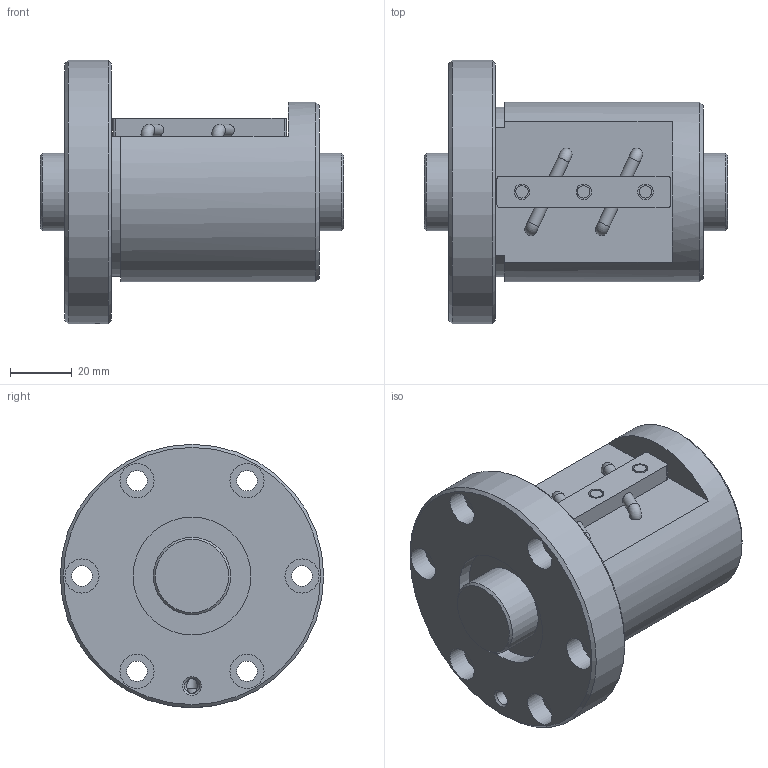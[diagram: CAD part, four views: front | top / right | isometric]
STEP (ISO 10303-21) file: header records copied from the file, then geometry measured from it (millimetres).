
FILE_DESCRIPTION(/* description */ ('STEP AP203'),/* implementation_level */ '2;1');
FILE_NAME(/* name */ 'BNF2508V-5RRG1+98LC0_000_rev',/* time_stamp */ '2024-08-06T07:29:37+02:00',/* author */ ('License CC BY-ND 4.0'),/* organization */ ('CADENAS'),/* preprocessor_version */ 'ST-DEVELOPER v19.3',/* originating_system */ 'PARTsolutions',/* authorisation */ ' ');
FILE_SCHEMA (('CONFIG_CONTROL_DESIGN'));
Length unit declared in the file: millimetre
Products named in the file (3): BNF2508V-5RRG1+98LC0_000_rev; BNF 2508-5RR000 Shaft; BNF 2508-5RR Nut
Assembly tree (2 placements, depth 2):
  BNF2508V-5RRG1+98LC0_000_rev
    BNF 2508-5RR000 Shaft
    BNF 2508-5RR Nut
Bounding box: 98 x 85 x 85 mm (x, y, z)
Volume: 240993.4 mm3; surface area: 46004.8 mm2
Topology: 2 solids, 2 shells, 77 faces, 168 edges, 110 vertices
Faces by surface type: cylinder 37, plane 29, cone 7, torus 4
Full cylindrical faces by diameter (mm): 3.75 x2, 3.865 x4, 4 x3, 4.917 x1, 5 x3, 6.6 x6, 11 x6, 25 x2, 38 x2, 58 x1, 85 x1
Entity records: 1945 total; most frequent: DIRECTION 348, CARTESIAN_POINT 326, ORIENTED_EDGE 220, AXIS2_PLACEMENT_3D 162, EDGE_LOOP 160, FACE_BOUND 160, EDGE_CURVE 110, VERTEX_POINT 96
